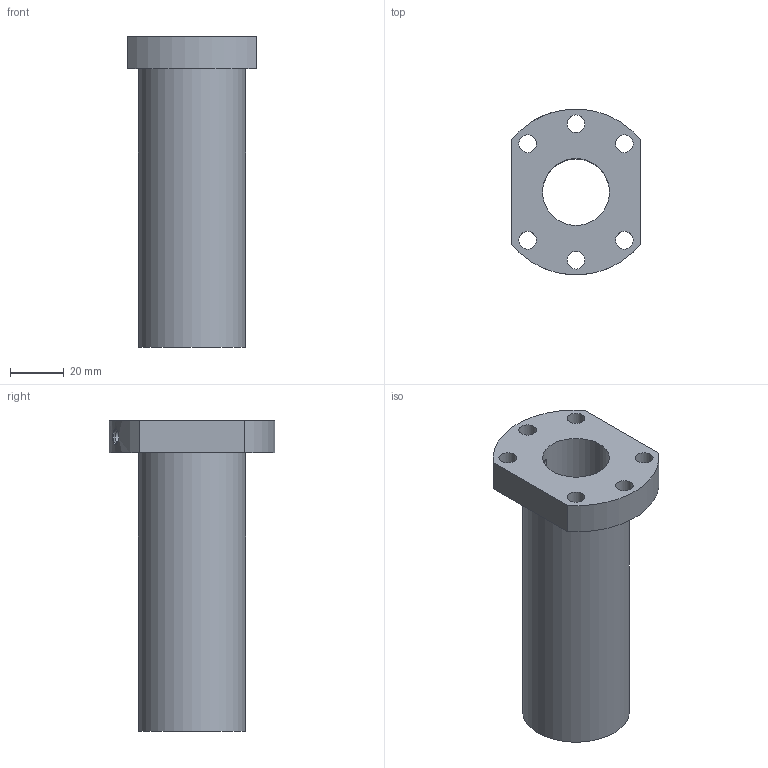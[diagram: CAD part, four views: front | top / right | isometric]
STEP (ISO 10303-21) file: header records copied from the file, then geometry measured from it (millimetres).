
FILE_DESCRIPTION(('FreeCAD Model'),'2;1');
FILE_NAME('Open CASCADE Shape Model','2025-04-29T11:10:07',('Author'),( ''),'Open CASCADE STEP processor 7.5','FreeCAD','Unknown');
FILE_SCHEMA(('AUTOMOTIVE_DESIGN { 1 0 10303 214 1 1 1 1 }'));
Length unit declared in the file: millimetre
Products named in the file (1): cgr2525sfsd3_17590-
Bounding box: 48 x 61.8 x 116 mm (x, y, z)
Volume: 102774.9 mm3; surface area: 30040.4 mm2
Topology: 1 solids, 1 shells, 23 faces, 55 edges, 36 vertices
Faces by surface type: cylinder 14, plane 6, cone 3
Full cylindrical faces by diameter (mm): 3 x1, 4.918 x2, 6 x1, 6.6 x6, 25 x1, 40 x1
Entity records: 1965 total; most frequent: CARTESIAN_POINT 808, DIRECTION 216, ORIENTED_EDGE 110, PCURVE 110, DEFINITIONAL_REPRESENTATION 110, LINE 103, VECTOR 103, EDGE_CURVE 55
